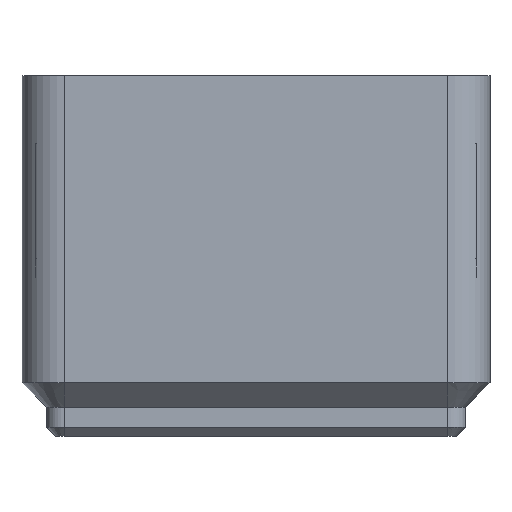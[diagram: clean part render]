
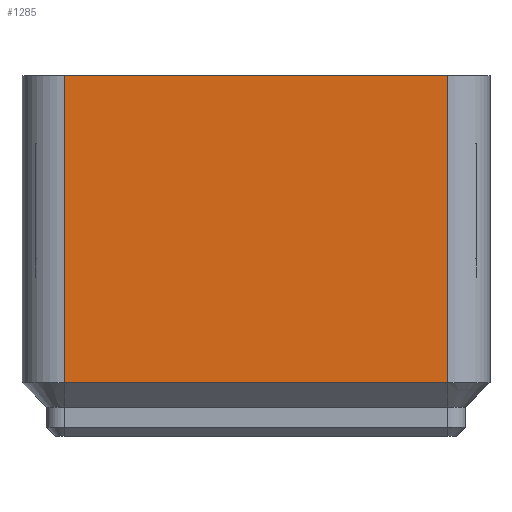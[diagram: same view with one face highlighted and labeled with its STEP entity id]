
A CAD part, front view. The second image highlights one B-rep face of the part: STEP entity #1285.
In plain terms, the highlighted planar face has unit normal (0, -1, 0).
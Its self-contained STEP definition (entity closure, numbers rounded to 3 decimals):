
#94 = CYLINDRICAL_SURFACE('',#95,3.75);
#95 = AXIS2_PLACEMENT_3D('',#96,#97,#98);
#96 = CARTESIAN_POINT('',(-17.,-38.,4.75));
#97 = DIRECTION('',(0.,0.,-1.));
#98 = DIRECTION('',(-1.,0.,0.));
#122 = PLANE('',#123);
#123 = AXIS2_PLACEMENT_3D('',#124,#125,#126);
#124 = CARTESIAN_POINT('',(0.,0.,32.));
#125 = DIRECTION('',(0.,0.,1.));
#126 = DIRECTION('',(1.,0.,-0.));
#300 = VERTEX_POINT('',#301);
#301 = CARTESIAN_POINT('',(-17.,-41.75,4.75));
#322 = EDGE_CURVE('',#300,#323,#325,.T.);
#323 = VERTEX_POINT('',#324);
#324 = CARTESIAN_POINT('',(-17.,-41.75,32.));
#325 = SURFACE_CURVE('',#326,(#330,#337),.PCURVE_S1.);
#326 = LINE('',#327,#328);
#327 = CARTESIAN_POINT('',(-17.,-41.75,4.75));
#328 = VECTOR('',#329,1.);
#329 = DIRECTION('',(0.,0.,1.));
#330 = PCURVE('',#94,#331);
#331 = DEFINITIONAL_REPRESENTATION('',(#332),#336);
#332 = LINE('',#333,#334);
#333 = CARTESIAN_POINT('',(4.712,0.));
#334 = VECTOR('',#335,1.);
#335 = DIRECTION('',(0.,-1.));
#336 = ( GEOMETRIC_REPRESENTATION_CONTEXT(2) 
PARAMETRIC_REPRESENTATION_CONTEXT() REPRESENTATION_CONTEXT('2D SPACE',''
  ) );
#337 = PCURVE('',#338,#343);
#338 = PLANE('',#339);
#339 = AXIS2_PLACEMENT_3D('',#340,#341,#342);
#340 = CARTESIAN_POINT('',(-17.,-41.75,4.75));
#341 = DIRECTION('',(0.,1.,0.));
#342 = DIRECTION('',(1.,0.,0.));
#343 = DEFINITIONAL_REPRESENTATION('',(#344),#348);
#344 = LINE('',#345,#346);
#345 = CARTESIAN_POINT('',(0.,0.));
#346 = VECTOR('',#347,1.);
#347 = DIRECTION('',(0.,-1.));
#348 = ( GEOMETRIC_REPRESENTATION_CONTEXT(2) 
PARAMETRIC_REPRESENTATION_CONTEXT() REPRESENTATION_CONTEXT('2D SPACE',''
  ) );
#382 = EDGE_CURVE('',#323,#383,#385,.T.);
#383 = VERTEX_POINT('',#384);
#384 = CARTESIAN_POINT('',(17.,-41.75,32.));
#385 = SURFACE_CURVE('',#386,(#390,#397),.PCURVE_S1.);
#386 = LINE('',#387,#388);
#387 = CARTESIAN_POINT('',(0.,-41.75,32.));
#388 = VECTOR('',#389,1.);
#389 = DIRECTION('',(1.,0.,0.));
#390 = PCURVE('',#122,#391);
#391 = DEFINITIONAL_REPRESENTATION('',(#392),#396);
#392 = LINE('',#393,#394);
#393 = CARTESIAN_POINT('',(0.,-41.75));
#394 = VECTOR('',#395,1.);
#395 = DIRECTION('',(1.,0.));
#396 = ( GEOMETRIC_REPRESENTATION_CONTEXT(2) 
PARAMETRIC_REPRESENTATION_CONTEXT() REPRESENTATION_CONTEXT('2D SPACE',''
  ) );
#397 = PCURVE('',#338,#398);
#398 = DEFINITIONAL_REPRESENTATION('',(#399),#403);
#399 = LINE('',#400,#401);
#400 = CARTESIAN_POINT('',(17.,-27.25));
#401 = VECTOR('',#402,1.);
#402 = DIRECTION('',(1.,0.));
#403 = ( GEOMETRIC_REPRESENTATION_CONTEXT(2) 
PARAMETRIC_REPRESENTATION_CONTEXT() REPRESENTATION_CONTEXT('2D SPACE',''
  ) );
#426 = CYLINDRICAL_SURFACE('',#427,3.75);
#427 = AXIS2_PLACEMENT_3D('',#428,#429,#430);
#428 = CARTESIAN_POINT('',(17.,-38.,4.75));
#429 = DIRECTION('',(0.,0.,-1.));
#430 = DIRECTION('',(-1.,0.,0.));
#1226 = PLANE('',#1227);
#1227 = AXIS2_PLACEMENT_3D('',#1228,#1229,#1230);
#1228 = CARTESIAN_POINT('',(0.,-41.75,4.75));
#1229 = DIRECTION('',(0.,-0.707,-0.707));
#1230 = DIRECTION('',(1.,0.,0.));
#1285 = ADVANCED_FACE('',(#1286),#338,.F.);
#1286 = FACE_BOUND('',#1287,.F.);
#1287 = EDGE_LOOP('',(#1288,#1311,#1312,#1313));
#1288 = ORIENTED_EDGE('',*,*,#1289,.F.);
#1289 = EDGE_CURVE('',#300,#1290,#1292,.T.);
#1290 = VERTEX_POINT('',#1291);
#1291 = CARTESIAN_POINT('',(17.,-41.75,4.75));
#1292 = SURFACE_CURVE('',#1293,(#1297,#1304),.PCURVE_S1.);
#1293 = LINE('',#1294,#1295);
#1294 = CARTESIAN_POINT('',(0.,-41.75,4.75));
#1295 = VECTOR('',#1296,1.);
#1296 = DIRECTION('',(1.,0.,0.));
#1297 = PCURVE('',#338,#1298);
#1298 = DEFINITIONAL_REPRESENTATION('',(#1299),#1303);
#1299 = LINE('',#1300,#1301);
#1300 = CARTESIAN_POINT('',(17.,0.));
#1301 = VECTOR('',#1302,1.);
#1302 = DIRECTION('',(1.,0.));
#1303 = ( GEOMETRIC_REPRESENTATION_CONTEXT(2) 
PARAMETRIC_REPRESENTATION_CONTEXT() REPRESENTATION_CONTEXT('2D SPACE',''
  ) );
#1304 = PCURVE('',#1226,#1305);
#1305 = DEFINITIONAL_REPRESENTATION('',(#1306),#1310);
#1306 = LINE('',#1307,#1308);
#1307 = CARTESIAN_POINT('',(0.,0.));
#1308 = VECTOR('',#1309,1.);
#1309 = DIRECTION('',(1.,0.));
#1310 = ( GEOMETRIC_REPRESENTATION_CONTEXT(2) 
PARAMETRIC_REPRESENTATION_CONTEXT() REPRESENTATION_CONTEXT('2D SPACE',''
  ) );
#1311 = ORIENTED_EDGE('',*,*,#322,.T.);
#1312 = ORIENTED_EDGE('',*,*,#382,.T.);
#1313 = ORIENTED_EDGE('',*,*,#1314,.F.);
#1314 = EDGE_CURVE('',#1290,#383,#1315,.T.);
#1315 = SURFACE_CURVE('',#1316,(#1320,#1327),.PCURVE_S1.);
#1316 = LINE('',#1317,#1318);
#1317 = CARTESIAN_POINT('',(17.,-41.75,4.75));
#1318 = VECTOR('',#1319,1.);
#1319 = DIRECTION('',(0.,0.,1.));
#1320 = PCURVE('',#338,#1321);
#1321 = DEFINITIONAL_REPRESENTATION('',(#1322),#1326);
#1322 = LINE('',#1323,#1324);
#1323 = CARTESIAN_POINT('',(34.,0.));
#1324 = VECTOR('',#1325,1.);
#1325 = DIRECTION('',(0.,-1.));
#1326 = ( GEOMETRIC_REPRESENTATION_CONTEXT(2) 
PARAMETRIC_REPRESENTATION_CONTEXT() REPRESENTATION_CONTEXT('2D SPACE',''
  ) );
#1327 = PCURVE('',#426,#1328);
#1328 = DEFINITIONAL_REPRESENTATION('',(#1329),#1333);
#1329 = LINE('',#1330,#1331);
#1330 = CARTESIAN_POINT('',(4.712,0.));
#1331 = VECTOR('',#1332,1.);
#1332 = DIRECTION('',(0.,-1.));
#1333 = ( GEOMETRIC_REPRESENTATION_CONTEXT(2) 
PARAMETRIC_REPRESENTATION_CONTEXT() REPRESENTATION_CONTEXT('2D SPACE',''
  ) );
